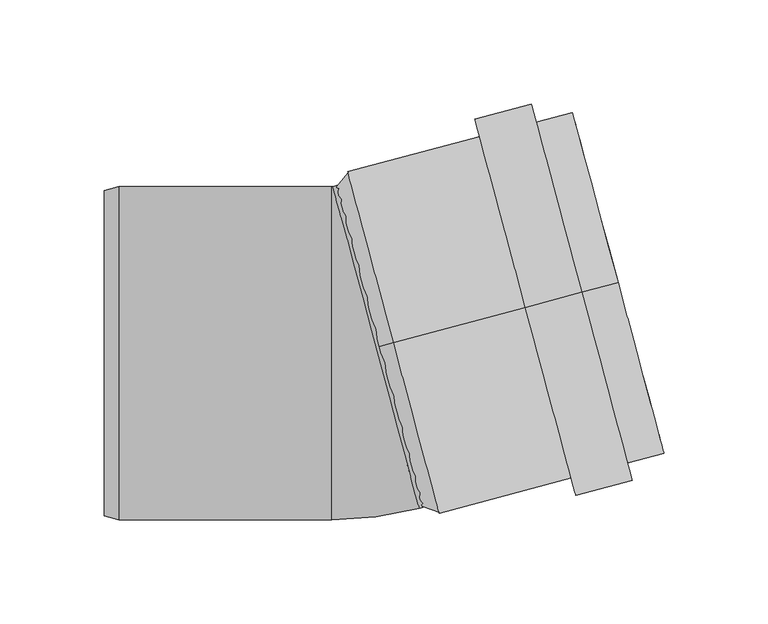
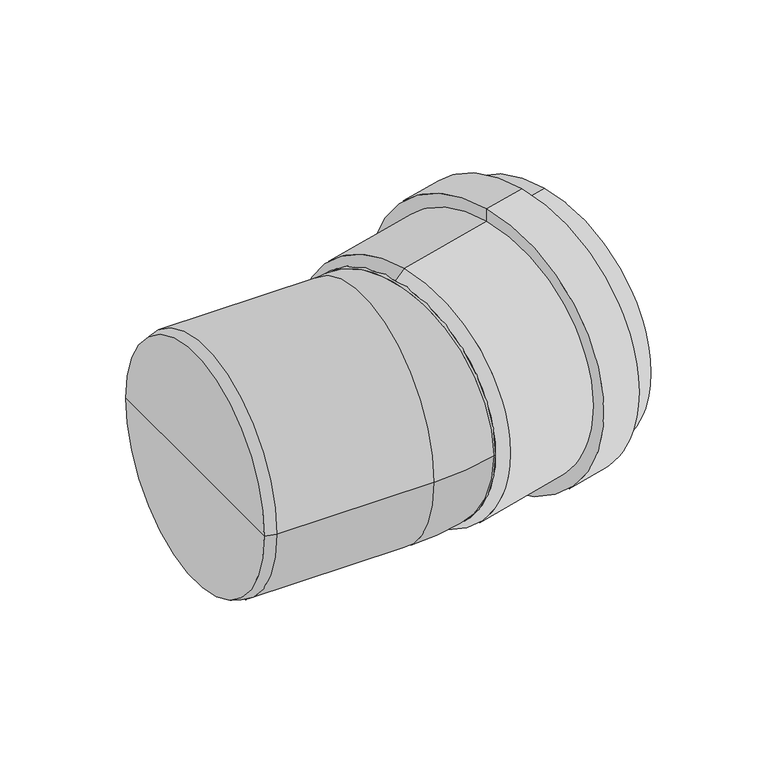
"""IFC4 building model written with IfcOpenShell, lengths in millimetres: pipe fitting geometry, OSMA_KG2000_PPKGB : Koleno 15°."""

from ifc_helpers import new_model, si_unit, point, frame, origin, place, context, project, spatial, polyline, circle_curve, ellipse_curve, trimmed, source, transform, mapped, element, save
from ifc_brep_helpers import plane_surface, cylinder_surface, revolved_surface, advanced_brep


def pipe_fitting_f6197389(model_context):
    return source(origin(), model_context, "Body", "AdvancedBrep", [
        advanced_brep(
        [(18.8355536, 5.0469714, 80.0), (18.8355536, 5.0469714, -80.0), (126.5362832, 33.9052949, -80.0), (126.5362832, 33.9052949, 80.0), (82.1036952, 21.9996188, 84.9), (82.1036952, 21.9996188, -84.9), (18.8355536, 5.0469714, -84.9), (18.8355536, 5.0469714, 84.9), (82.1036952, 21.9996188, 93.5), (82.1036952, 21.9996188, -93.5), (109.1496184, 29.2465521, 93.5), (109.1496184, 29.2465521, -93.5), (109.1496184, 29.2465521, 84.9), (109.1496184, 29.2465521, -84.9), (126.5362832, 33.9052949, 84.9), (126.5362832, 33.9052949, -84.9), (12.0740728, 3.2352381, 75.1), (12.0740728, 3.2352381, -75.1), (12.0740728, 3.2352381, 80.0), (12.0740728, 3.2352381, -80.0)],
        [
            (0, 1, circle_curve(frame((18.8355536, 5.0469714, 0.0), z_axis=(-0.9659258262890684, -0.25881904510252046, 0.0), x_axis=(0.0, 0.0, -1.0000000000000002)), 80.0)),
            (1, 2),
            (2, 3, circle_curve(frame((126.5362832, 33.9052949, 0.0), z_axis=(0.9659258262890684, 0.25881904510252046, 0.0), x_axis=(0.0, 0.0, -1.0000000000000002)), 80.0)),
            (3, 0),
            (1, 0, circle_curve(frame((18.8355536, 5.0469714, 0.0), z_axis=(-0.9659258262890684, -0.25881904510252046, 0.0), x_axis=(0.0, 0.0, -1.0000000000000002)), 80.0)),
            (3, 2, circle_curve(frame((126.5362832, 33.9052949, 0.0), z_axis=(0.9659258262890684, 0.25881904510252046, 0.0), x_axis=(0.0, 0.0, -1.0000000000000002)), 80.0)),
            (4, 5, circle_curve(frame((82.1036952, 21.9996188, 0.0), z_axis=(-0.9659258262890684, -0.25881904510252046, 0.0), x_axis=(0.0, 0.0, -1.0000000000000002)), 84.9)),
            (5, 6),
            (6, 7, circle_curve(frame((18.8355536, 5.0469714, 0.0), z_axis=(0.9659258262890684, 0.25881904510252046, 0.0), x_axis=(0.0, 0.0, -1.0000000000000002)), 84.9)),
            (7, 4),
            (5, 4, circle_curve(frame((82.1036952, 21.9996188, 0.0), z_axis=(-0.9659258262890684, -0.25881904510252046, 0.0), x_axis=(0.0, 0.0, -1.0000000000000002)), 84.9)),
            (7, 6, circle_curve(frame((18.8355536, 5.0469714, 0.0), z_axis=(0.9659258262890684, 0.25881904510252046, 0.0), x_axis=(0.0, 0.0, -1.0000000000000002)), 84.9)),
            (8, 9, circle_curve(frame((82.1036952, 21.9996188, 0.0), z_axis=(-0.9659258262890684, -0.25881904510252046, 0.0), x_axis=(0.0, 0.0, -1.0000000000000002)), 93.5)),
            (9, 5),
            (4, 8),
            (9, 8, circle_curve(frame((82.1036952, 21.9996188, 0.0), z_axis=(-0.9659258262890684, -0.25881904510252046, 0.0), x_axis=(0.0, 0.0, -1.0000000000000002)), 93.5)),
            (10, 11, circle_curve(frame((109.1496184, 29.2465521, 0.0), z_axis=(-0.9659258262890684, -0.25881904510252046, 0.0), x_axis=(0.0, 0.0, -1.0000000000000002)), 93.5)),
            (11, 9),
            (8, 10),
            (11, 10, circle_curve(frame((109.1496184, 29.2465521, 0.0), z_axis=(-0.9659258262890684, -0.25881904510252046, 0.0), x_axis=(0.0, 0.0, -1.0000000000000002)), 93.5)),
            (12, 13, circle_curve(frame((109.1496184, 29.2465521, 0.0), z_axis=(-0.9659258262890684, -0.25881904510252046, 0.0), x_axis=(0.0, 0.0, -1.0000000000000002)), 84.9)),
            (13, 11),
            (10, 12),
            (13, 12, circle_curve(frame((109.1496184, 29.2465521, 0.0), z_axis=(-0.9659258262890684, -0.25881904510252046, 0.0), x_axis=(0.0, 0.0, -1.0000000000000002)), 84.9)),
            (14, 15, circle_curve(frame((126.5362832, 33.9052949, 0.0), z_axis=(-0.9659258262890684, -0.25881904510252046, 0.0), x_axis=(0.0, 0.0, -1.0000000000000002)), 84.9)),
            (15, 13),
            (12, 14),
            (15, 14, circle_curve(frame((126.5362832, 33.9052949, 0.0), z_axis=(-0.9659258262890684, -0.25881904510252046, 0.0), x_axis=(0.0, 0.0, -1.0000000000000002)), 84.9)),
            (2, 15),
            (14, 3),
            (16, 17, circle_curve(frame((12.0740728, 3.2352381, 0.0), z_axis=(-0.9659258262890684, -0.25881904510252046, 0.0), x_axis=(0.0, 0.0, -1.0000000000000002)), 75.1)),
            (17, 1),
            (0, 16),
            (17, 16, circle_curve(frame((12.0740728, 3.2352381, 0.0), z_axis=(-0.9659258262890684, -0.25881904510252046, 0.0), x_axis=(0.0, 0.0, -1.0000000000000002)), 75.1)),
            (18, 19, circle_curve(frame((12.0740728, 3.2352381, 0.0), z_axis=(-0.9659258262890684, -0.25881904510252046, 0.0), x_axis=(0.0, 0.0, -1.0000000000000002)), 80.0)),
            (19, 17),
            (16, 18),
            (19, 18, circle_curve(frame((12.0740728, 3.2352381, 0.0), z_axis=(-0.9659258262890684, -0.25881904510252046, 0.0), x_axis=(0.0, 0.0, -1.0000000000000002)), 80.0)),
            (6, 19),
            (18, 7),
        ],
        [
            revolved_surface(polyline([(126.5362832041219, 33.90529488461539, -80.00000000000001), (18.83555360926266, 5.046971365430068, -80.00000000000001)]), (2705.0503748, 724.8160634, 0.0), (0.9659258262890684, 0.25881904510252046, 0.0)),
            cylinder_surface(frame((2705.0503748, 724.8160634, 0.0), z_axis=(0.9659258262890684, 0.25881904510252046, 0.0), x_axis=(0.0, 0.0, -1.0000000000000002)), 84.9),
            plane_surface(frame((82.1036952, 21.9996188, 0.0), z_axis=(-0.9659258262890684, -0.25881904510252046, 0.0), x_axis=(0.0, 0.0, -1.0))),
            cylinder_surface(frame((2705.0503748, 724.8160634, 0.0), z_axis=(0.9659258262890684, 0.25881904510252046, 0.0), x_axis=(0.0, 0.0, -1.0000000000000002)), 93.5),
            plane_surface(frame((109.1496184, 29.2465521, 0.0), z_axis=(0.9659258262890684, 0.25881904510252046, 0.0), x_axis=(0.0, 0.0, -1.0))),
            plane_surface(frame((126.5362832, 33.9052949, 0.0), z_axis=(0.9659258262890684, 0.25881904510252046, 0.0), x_axis=(0.0, 0.0, -1.0))),
            revolved_surface(polyline([(18.8355536, 5.0469714, -80.0), (12.0740728, 3.2352381, -75.1)]), (2705.0503748, 724.8160634, 0.0), (0.9659258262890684, 0.25881904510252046, 0.0)),
            plane_surface(frame((12.0740728, 3.2352381, 0.0), z_axis=(-0.9659258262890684, -0.25881904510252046, 0.0), x_axis=(0.0, 0.0, -1.0))),
            revolved_surface(polyline([(12.0740728, 3.2352381, -80.0), (18.8355536, 5.0469714, -84.9)]), (2705.0503748, 724.8160634, 0.0), (0.9659258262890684, 0.25881904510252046, 0.0)),
        ],
        [
            (0, [[1, 2, 3, 4]]),
            (0, [[5, -4, 6, -2]]),
            (1, [[7, 8, 9, 10]]),
            (1, [[11, -10, 12, -8]]),
            (2, [[13, 14, -7, 15]]),
            (2, [[16, -15, -11, -14]]),
            (3, [[17, 18, -13, 19]]),
            (3, [[20, -19, -16, -18]]),
            (4, [[21, 22, -17, 23]]),
            (4, [[24, -23, -20, -22]]),
            (1, [[25, 26, -21, 27]]),
            (1, [[28, -27, -24, -26]]),
            (5, [[-3, 29, -25, 30]]),
            (5, [[-6, -30, -28, -29]]),
            (6, [[31, 32, -1, 33]]),
            (6, [[34, -33, -5, -32]]),
            (7, [[35, 36, -31, 37]]),
            (7, [[38, -37, -34, -36]]),
            (8, [[-9, 39, -35, 40]]),
            (8, [[-12, -40, -38, -39]]),
        ],
    ),
        advanced_brep(
        [(-120.0, 0.0, 0.0), (-120.0, 78.1243556, 0.0), (-120.0, -78.1243556, 0.0), (-113.0, 80.0, 0.0), (-113.0, -80.0, 0.0), (-10.34145, 80.0511113, 0.0), (-10.7296786, 80.0, 0.0), (-10.7296786, -80.0, 0.0), (31.0695972, -74.4970209, 0.0), (10.3640736, 2.7770452, 80.0), (10.3640736, 2.7770452, -80.0), (39.0581143, -72.3565042, 0.0), (-2.3529329, 82.191628, 0.0)],
        [
            (0, 1),
            (1, 2, circle_curve(frame((-120.0, 0.0, 0.0), z_axis=(-1.0, 0.0, 0.0), x_axis=(0.0, 1.0, 0.0)), 78.1243556)),
            (2, 0),
            (2, 1, circle_curve(frame((-120.0, 0.0, 0.0), z_axis=(-1.0, 0.0, 0.0), x_axis=(0.0, 1.0, 0.0)), 78.1243556)),
            (1, 3),
            (3, 4, circle_curve(frame((-113.0, 0.0, 0.0), z_axis=(-1.0, 0.0, 0.0), x_axis=(0.0, 1.0, 0.0)), 80.0)),
            (4, 2),
            (4, 3, circle_curve(frame((-113.0, 0.0, 0.0), z_axis=(-1.0, 0.0, 0.0), x_axis=(0.0, 1.0, 0.0)), 80.0)),
            (5, 6, circle_curve(frame((-10.7296786, 81.5, 0.0), z_axis=(0.0, 0.0, -1.0), x_axis=(0.0, -1.0, 0.0)), 1.5)),
            (6, 7, circle_curve(frame((-10.7296786, 0.0, 0.0), z_axis=(1.0, 0.0, 0.0), x_axis=(0.0, 1.0, 0.0)), 80.0)),
            (7, 8, circle_curve(frame((-10.7296786, 81.5, 0.0), z_axis=(0.0, 0.0, 1.0), x_axis=(0.0, -1.0, 0.0)), 161.5)),
            (8, 9, circle_curve(frame((10.3640736, 2.7770452, 0.0), z_axis=(-0.9659258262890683, -0.2588190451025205, 0.0), x_axis=(-0.2588190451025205, 0.9659258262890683, 0.0)), 80.0)),
            (9, 5, circle_curve(frame((10.3640736, 2.7770452, 0.0), z_axis=(-0.9659258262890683, -0.2588190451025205, 0.0), x_axis=(-0.2588190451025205, 0.9659258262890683, 0.0)), 80.0)),
            (5, 10, circle_curve(frame((10.3640736, 2.7770452, 0.0), z_axis=(-0.9659258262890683, -0.2588190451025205, 0.0), x_axis=(-0.2588190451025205, 0.9659258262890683, 0.0)), 80.0)),
            (10, 8, circle_curve(frame((10.3640736, 2.7770452, 0.0), z_axis=(-0.9659258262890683, -0.25881904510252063, 0.0), x_axis=(-0.25881904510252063, 0.9659258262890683, 0.0)), 80.0)),
            (7, 6, circle_curve(frame((-10.7296786, 0.0, 0.0), z_axis=(1.0, 0.0, 0.0), x_axis=(0.0, 1.0, 0.0)), 80.0)),
            (3, 6),
            (7, 4),
            (11, 12, circle_curve(frame((18.3525907, 4.9175619, 0.0), z_axis=(0.9659258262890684, 0.25881904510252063, 0.0), x_axis=(-0.25881904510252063, 0.9659258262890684, 0.0)), 80.0)),
            (12, 11, circle_curve(frame((18.3525907, 4.9175619, 0.0), z_axis=(0.9659258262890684, 0.25881904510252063, 0.0), x_axis=(-0.25881904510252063, 0.9659258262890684, 0.0)), 80.0)),
            (12, 5),
            (8, 11),
        ],
        [
            plane_surface(frame((-120.0, 0.0, 0.0), z_axis=(-1.0, 0.0, 0.0), x_axis=(0.0, 1.0, 0.0))),
            revolved_surface(polyline([(-113.0, 80.0, 0.0), (-120.0, 78.1243556, 0.0)]), (331.0587718, 0.0, 0.0), (-1.0, 0.0, 0.0)),
            revolved_surface(trimmed(ellipse_curve(frame((-10.7296786, 0.0, 0.0), z_axis=(-1.0, 0.0, 0.0), x_axis=(0.0, 1.0, 0.0)), 80.0, 80.0), [point((-10.7296786, -80.0, 0.0))], [point((-10.7296786, 80.0, 0.0))], True, "CARTESIAN"), (-10.7296786, 81.5, 0.0), (0.0, 0.0, 1.0)),
            revolved_surface(trimmed(ellipse_curve(frame((-10.7296786, 0.0, 0.0), z_axis=(-1.0, 0.0, 0.0), x_axis=(0.0, 1.0, 0.0)), 80.0, 80.0), [point((-10.7296786, 80.0, 0.0))], [point((-10.7296786, -80.0, 0.0))], True, "CARTESIAN"), (-10.7296786, 81.5, 0.0), (0.0, 0.0, 1.0)),
            cylinder_surface(frame((331.0587718, 0.0, 0.0), z_axis=(-1.0, 0.0, 0.0), x_axis=(0.0, 1.0, 0.0)), 80.0),
            plane_surface(frame((18.3525907, 4.9175619, 0.0), z_axis=(0.9659258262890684, 0.25881904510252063, 0.0), x_axis=(0.0, 0.0, 1.0))),
            cylinder_surface(frame((10.3640736, 2.7770452, 0.0), z_axis=(-0.9659258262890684, -0.25881904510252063, 0.0), x_axis=(-0.25881904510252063, 0.9659258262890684, 0.0)), 80.0),
        ],
        [
            (0, [[1, 2, 3]]),
            (0, [[-1, -3, 4]]),
            (1, [[-2, 5, 6, 7]]),
            (1, [[-4, -7, 8, -5]]),
            (2, [[9, 10, 11, 12, 13]]),
            (3, [[-9, 14, 15, -11, 16]]),
            (4, [[-6, 17, -16, 18]]),
            (4, [[-8, -18, -10, -17]]),
            (5, [[19, 20]]),
            (6, [[-20, 21, -13, -12, 22]]),
            (6, [[-19, -22, -15, -14, -21]]),
        ],
    ),
    ])


if __name__ == "__main__":
    model = new_model("IFC4")
    model_context = context("Model", 3, world=origin())
    ifc_project = project(units=[si_unit("LENGTHUNIT", "METRE", prefix="MILLI")], contexts=[model_context])
    site = spatial("IfcSite", under=ifc_project)
    building = spatial("IfcBuilding", under=site)
    placement = place(None, origin())
    pipe_fitting_shape = pipe_fitting_f6197389(model_context)
    element("IfcPipeFitting", 1, ObjectType="OSMA_KG2000_PPKGB : Koleno 15°", at=placement, inside=building, context=model_context, shape_type="MappedRepresentation", body=[
        mapped(pipe_fitting_shape, transform((0.0, 0.0, 0.0), x_axis=(1.0, 0.0, 0.0), y_axis=(0.0, 1.0, 0.0), z_axis=(0.0, 0.0, 1.0))),
    ])
    save(model, "model.ifc")
